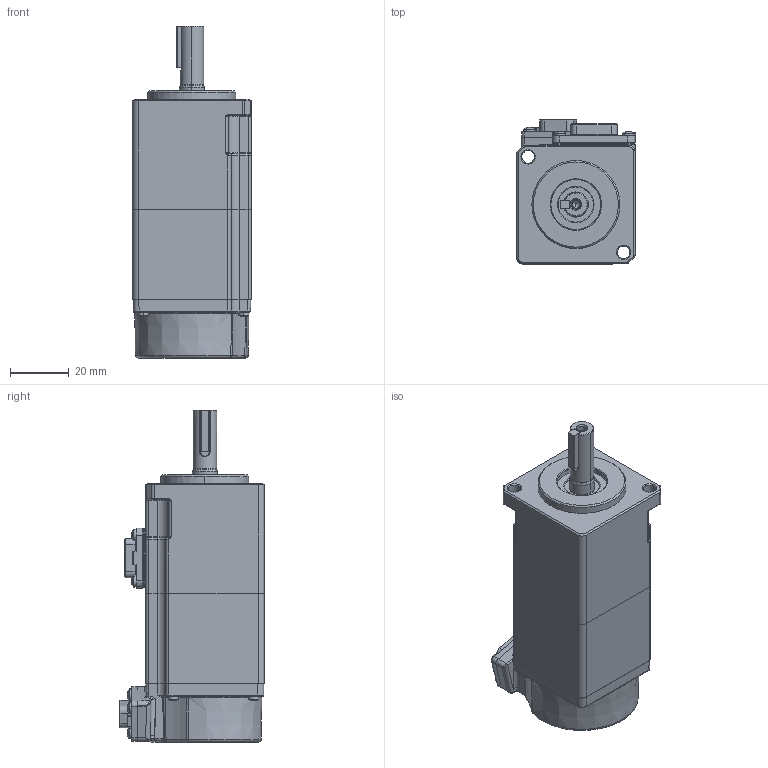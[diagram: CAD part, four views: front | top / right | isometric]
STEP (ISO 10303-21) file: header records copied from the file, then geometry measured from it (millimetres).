
FILE_DESCRIPTION (( 'STEP AP214' ), '1' );
FILE_NAME ('40法兰-50W-无油封带制动器(RSA1-H040AA5B30C).STEP', '2024-09-06T08:21:44', ( '' ), ( '' ), 'SwSTEP 2.0', 'SolidWorks 2020', '' );
FILE_SCHEMA (( 'AUTOMOTIVE_DESIGN' ));
Length unit declared in the file: millimetre
Products named in the file (10): 苤萇儂晤鎢傷赽; 3112000005_十字槽小盘头螺钉_M2x8(GBT823-2000 锌镍合金 黑色 耐落）; 40-綴裔; 40-50W儂褲-拸蚐猾; 40-8粣噤25粣扥; 40-惕掅綴傷裔; 3231000003_勾板螺丝型6pin连接器插座_GAMC3063; 3114000001_十字槽盘头自挤螺钉_M2x5(GBT6560-2014 锌镍合金 黑色); す瑩_B3x3x14; 40法兰-50W-无油封带制动器(RSA1-H040AA5B30C)
Assembly tree (19 placements, depth 2):
  40法兰-50W-无油封带制动器(RSA1-H040AA5B30C)
    40-50W儂褲-拸蚐猾
    40-8粣噤25粣扥
    40-惕掅綴傷裔
    40-綴裔
    す瑩_B3x3x14
    3231000003_勾板螺丝型6pin连接器插座_GAMC3063
    苤萇儂晤鎢傷赽
    3114000001_十字槽盘头自挤螺钉_M2x5(GBT6560-2014 锌镍合金 黑色)  x8
    3112000005_十字槽小盘头螺钉_M2x8(GBT823-2000 锌镍合金 黑色 耐落）  x4
Bounding box: 40.4 x 49.1 x 113.1 mm (x, y, z)
Volume: 113722 mm3; surface area: 40381.2 mm2
Topology: 21 solids, 21 shells, 2695 faces, 7159 edges, 4560 vertices
Faces by surface type: plane 1341, cylinder 627, bspline 315, cone 239, torus 143, sphere 30
Entity records: 89804 total; most frequent: CARTESIAN_POINT 26184, ORIENTED_EDGE 12440, DIRECTION 10740, EDGE_CURVE 6220, VERTEX_POINT 3972, LINE 3656, VECTOR 3656, AXIS2_PLACEMENT_3D 3542
